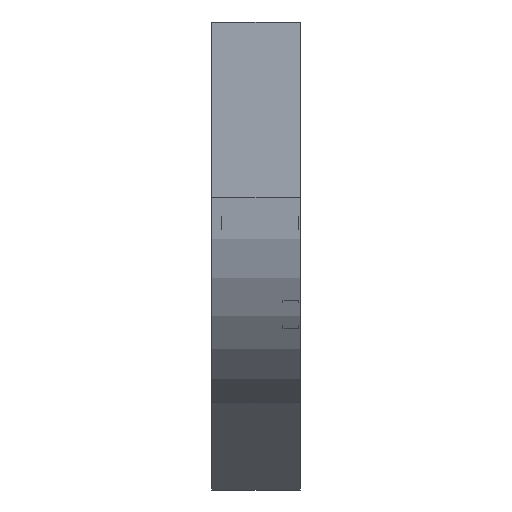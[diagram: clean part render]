
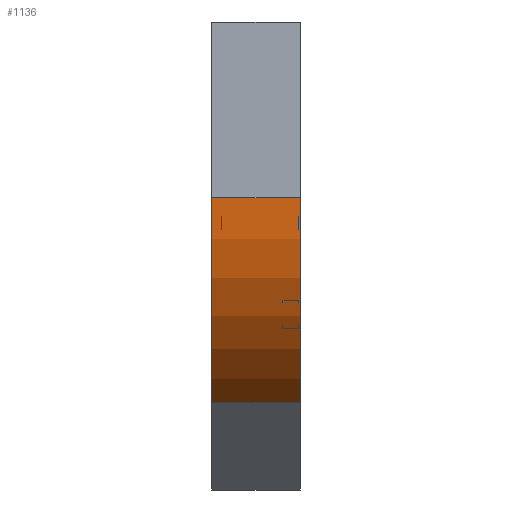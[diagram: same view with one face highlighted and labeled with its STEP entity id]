
A CAD part, left-side view. The second image highlights one B-rep face of the part: STEP entity #1136.
In plain terms, the highlighted cylindrical face has radius 300 mm (diameter 600 mm), a partial arc.
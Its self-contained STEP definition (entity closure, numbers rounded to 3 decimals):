
#37 = AXIS2_PLACEMENT_3D ( 'NONE', #1307, #418, #1714 ) ;
#57 = DIRECTION ( 'NONE',  ( 0., -1., 0. ) ) ;
#199 = VERTEX_POINT ( 'NONE', #1254 ) ;
#262 = EDGE_LOOP ( 'NONE', ( #674, #854, #1838, #1556 ) ) ;
#292 = EDGE_CURVE ( 'NONE', #199, #1608, #478, .T. ) ;
#295 = DIRECTION ( 'NONE',  ( 0., -1., 0. ) ) ;
#313 = CARTESIAN_POINT ( 'NONE',  ( 150., 112.5, -483.013 ) ) ;
#360 = CARTESIAN_POINT ( 'NONE',  ( 0., 0., -223.205 ) ) ;
#418 = DIRECTION ( 'NONE',  ( 0., -1., 0. ) ) ;
#478 = CIRCLE ( 'NONE', #533, 300. ) ;
#498 = DIRECTION ( 'NONE',  ( 0., -1., 0. ) ) ;
#510 = CIRCLE ( 'NONE', #930, 300. ) ;
#533 = AXIS2_PLACEMENT_3D ( 'NONE', #1754, #295, #1167 ) ;
#674 = ORIENTED_EDGE ( 'NONE', *, *, #807, .F. ) ;
#795 = DIRECTION ( 'NONE',  ( -1., 0., 0. ) ) ;
#807 = EDGE_CURVE ( 'NONE', #828, #1583, #510, .T. ) ;
#817 = VECTOR ( 'NONE', #498, 1000. ) ;
#828 = VERTEX_POINT ( 'NONE', #360 ) ;
#854 = ORIENTED_EDGE ( 'NONE', *, *, #1824, .F. ) ;
#900 = CARTESIAN_POINT ( 'NONE',  ( 0., 0., -223.205 ) ) ;
#930 = AXIS2_PLACEMENT_3D ( 'NONE', #1231, #1223, #795 ) ;
#1136 = ADVANCED_FACE ( 'NONE', ( #1284 ), #1851, .T. ) ;
#1167 = DIRECTION ( 'NONE',  ( -1., 0., 0. ) ) ;
#1218 = CARTESIAN_POINT ( 'NONE',  ( 150., 0., -483.013 ) ) ;
#1223 = DIRECTION ( 'NONE',  ( 0., -1., 0. ) ) ;
#1231 = CARTESIAN_POINT ( 'NONE',  ( 300., 0., -223.205 ) ) ;
#1254 = CARTESIAN_POINT ( 'NONE',  ( 0., 112.5, -223.205 ) ) ;
#1284 = FACE_OUTER_BOUND ( 'NONE', #262, .T. ) ;
#1307 = CARTESIAN_POINT ( 'NONE',  ( 300., 0., -223.205 ) ) ;
#1359 = LINE ( 'NONE', #1218, #817 ) ;
#1387 = CARTESIAN_POINT ( 'NONE',  ( 150., 0., -483.013 ) ) ;
#1449 = EDGE_CURVE ( 'NONE', #1608, #1583, #1359, .T. ) ;
#1518 = VECTOR ( 'NONE', #57, 1000. ) ;
#1556 = ORIENTED_EDGE ( 'NONE', *, *, #1449, .T. ) ;
#1583 = VERTEX_POINT ( 'NONE', #1387 ) ;
#1608 = VERTEX_POINT ( 'NONE', #313 ) ;
#1714 = DIRECTION ( 'NONE',  ( 0., 0., -1. ) ) ;
#1754 = CARTESIAN_POINT ( 'NONE',  ( 300., 112.5, -223.205 ) ) ;
#1762 = LINE ( 'NONE', #900, #1518 ) ;
#1824 = EDGE_CURVE ( 'NONE', #199, #828, #1762, .T. ) ;
#1838 = ORIENTED_EDGE ( 'NONE', *, *, #292, .T. ) ;
#1851 = CYLINDRICAL_SURFACE ( 'NONE', #37, 300. ) ;
